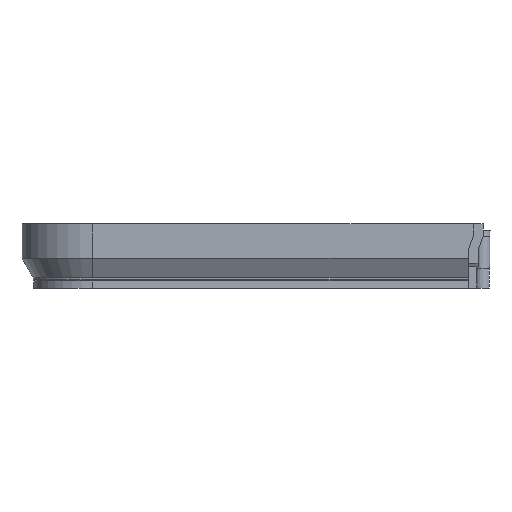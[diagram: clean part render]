
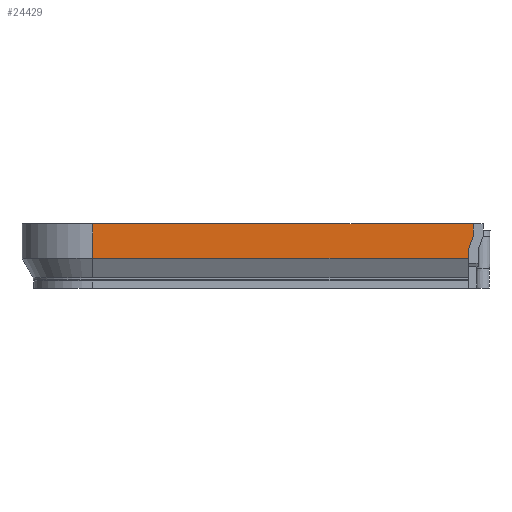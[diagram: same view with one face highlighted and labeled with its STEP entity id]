
A CAD part, left-side view. The second image highlights one B-rep face of the part: STEP entity #24429.
In plain terms, the highlighted planar face has unit normal (-1, 0, 0).
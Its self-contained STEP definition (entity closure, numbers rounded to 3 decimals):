
#2183 = PLANE('',#2184);
#2184 = AXIS2_PLACEMENT_3D('',#2185,#2186,#2187);
#2185 = CARTESIAN_POINT('',(0.,-3.198,26.));
#2186 = DIRECTION('',(0.,0.,1.));
#2187 = DIRECTION('',(1.,0.,-0.));
#10111 = VERTEX_POINT('',#10112);
#10112 = CARTESIAN_POINT('',(-196.5,152.,26.));
#10127 = CYLINDRICAL_SURFACE('',#10128,28.5);
#10128 = AXIS2_PLACEMENT_3D('',#10129,#10130,#10131);
#10129 = CARTESIAN_POINT('',(-168.,152.,12.));
#10130 = DIRECTION('',(-0.,-0.,-1.));
#10131 = DIRECTION('',(1.,0.,-0.));
#10139 = EDGE_CURVE('',#10111,#10140,#10142,.T.);
#10140 = VERTEX_POINT('',#10141);
#10141 = CARTESIAN_POINT('',(-196.5,-1.9,26.));
#10142 = SURFACE_CURVE('',#10143,(#10147,#10154),.PCURVE_S1.);
#10143 = LINE('',#10144,#10145);
#10144 = CARTESIAN_POINT('',(-196.5,152.,26.));
#10145 = VECTOR('',#10146,1.);
#10146 = DIRECTION('',(0.,-1.,0.));
#10147 = PCURVE('',#2183,#10148);
#10148 = DEFINITIONAL_REPRESENTATION('',(#10149),#10153);
#10149 = LINE('',#10150,#10151);
#10150 = CARTESIAN_POINT('',(-196.5,155.198));
#10151 = VECTOR('',#10152,1.);
#10152 = DIRECTION('',(0.,-1.));
#10153 = ( GEOMETRIC_REPRESENTATION_CONTEXT(2) 
PARAMETRIC_REPRESENTATION_CONTEXT() REPRESENTATION_CONTEXT('2D SPACE',''
  ) );
#10154 = PCURVE('',#10155,#10160);
#10155 = PLANE('',#10156);
#10156 = AXIS2_PLACEMENT_3D('',#10157,#10158,#10159);
#10157 = CARTESIAN_POINT('',(-196.5,152.,12.));
#10158 = DIRECTION('',(1.,0.,-0.));
#10159 = DIRECTION('',(0.,-1.,0.));
#10160 = DEFINITIONAL_REPRESENTATION('',(#10161),#10165);
#10161 = LINE('',#10162,#10163);
#10162 = CARTESIAN_POINT('',(0.,-14.));
#10163 = VECTOR('',#10164,1.);
#10164 = DIRECTION('',(1.,0.));
#10165 = ( GEOMETRIC_REPRESENTATION_CONTEXT(2) 
PARAMETRIC_REPRESENTATION_CONTEXT() REPRESENTATION_CONTEXT('2D SPACE',''
  ) );
#10182 = PLANE('',#10183);
#10183 = AXIS2_PLACEMENT_3D('',#10184,#10185,#10186);
#10184 = CARTESIAN_POINT('',(-245.9,-1.9,38.));
#10185 = DIRECTION('',(0.,-1.,0.));
#10186 = DIRECTION('',(1.,0.,0.));
#23549 = B_SPLINE_SURFACE_WITH_KNOTS('',1,1,(
    (#23550,#23551)
    ,(#23552,#23553
    )),.UNSPECIFIED.,.F.,.F.,.F.,(2,2),(2,2),(0.,332.5),(0.,1.),
  .PIECEWISE_BEZIER_KNOTS.);
#23550 = CARTESIAN_POINT('',(-192.,152.,4.2));
#23551 = CARTESIAN_POINT('',(-196.5,152.,12.));
#23552 = CARTESIAN_POINT('',(-192.,-176.,4.2));
#23553 = CARTESIAN_POINT('',(-196.5,-180.5,12.));
#23847 = EDGE_CURVE('',#10111,#23848,#23850,.T.);
#23848 = VERTEX_POINT('',#23849);
#23849 = CARTESIAN_POINT('',(-196.5,152.,12.));
#23850 = SURFACE_CURVE('',#23851,(#23855,#23862),.PCURVE_S1.);
#23851 = LINE('',#23852,#23853);
#23852 = CARTESIAN_POINT('',(-196.5,152.,26.));
#23853 = VECTOR('',#23854,1.);
#23854 = DIRECTION('',(0.,0.,-1.));
#23855 = PCURVE('',#10127,#23856);
#23856 = DEFINITIONAL_REPRESENTATION('',(#23857),#23861);
#23857 = LINE('',#23858,#23859);
#23858 = CARTESIAN_POINT('',(-3.142,-14.));
#23859 = VECTOR('',#23860,1.);
#23860 = DIRECTION('',(0.,1.));
#23861 = ( GEOMETRIC_REPRESENTATION_CONTEXT(2) 
PARAMETRIC_REPRESENTATION_CONTEXT() REPRESENTATION_CONTEXT('2D SPACE',''
  ) );
#23862 = PCURVE('',#10155,#23863);
#23863 = DEFINITIONAL_REPRESENTATION('',(#23864),#23868);
#23864 = LINE('',#23865,#23866);
#23865 = CARTESIAN_POINT('',(0.,-14.));
#23866 = VECTOR('',#23867,1.);
#23867 = DIRECTION('',(0.,1.));
#23868 = ( GEOMETRIC_REPRESENTATION_CONTEXT(2) 
PARAMETRIC_REPRESENTATION_CONTEXT() REPRESENTATION_CONTEXT('2D SPACE',''
  ) );
#24265 = PLANE('',#24266);
#24266 = AXIS2_PLACEMENT_3D('',#24267,#24268,#24269);
#24267 = CARTESIAN_POINT('',(-245.9,0.1,8.));
#24268 = DIRECTION('',(0.,-1.,0.));
#24269 = DIRECTION('',(1.,0.,0.));
#24372 = PLANE('',#24373);
#24373 = AXIS2_PLACEMENT_3D('',#24374,#24375,#24376);
#24374 = CARTESIAN_POINT('',(-245.9,-1.9,21.));
#24375 = DIRECTION('',(0.,-0.94,-0.342));
#24376 = DIRECTION('',(1.,0.,0.));
#24386 = EDGE_CURVE('',#10140,#24387,#24389,.T.);
#24387 = VERTEX_POINT('',#24388);
#24388 = CARTESIAN_POINT('',(-196.5,-1.9,21.));
#24389 = SURFACE_CURVE('',#24390,(#24394,#24400),.PCURVE_S1.);
#24390 = LINE('',#24391,#24392);
#24391 = CARTESIAN_POINT('',(-196.5,-1.9,25.));
#24392 = VECTOR('',#24393,1.);
#24393 = DIRECTION('',(0.,-0.,-1.));
#24394 = PCURVE('',#10182,#24395);
#24395 = DEFINITIONAL_REPRESENTATION('',(#24396),#24399);
#24396 = B_SPLINE_CURVE_WITH_KNOTS('',1,(#24397,#24398),.UNSPECIFIED.,
  .F.,.F.,(2,2),(-1.,4.),.PIECEWISE_BEZIER_KNOTS.);
#24397 = CARTESIAN_POINT('',(49.4,-12.));
#24398 = CARTESIAN_POINT('',(49.4,-17.));
#24399 = ( GEOMETRIC_REPRESENTATION_CONTEXT(2) 
PARAMETRIC_REPRESENTATION_CONTEXT() REPRESENTATION_CONTEXT('2D SPACE',''
  ) );
#24400 = PCURVE('',#10155,#24401);
#24401 = DEFINITIONAL_REPRESENTATION('',(#24402),#24405);
#24402 = B_SPLINE_CURVE_WITH_KNOTS('',1,(#24403,#24404),.UNSPECIFIED.,
  .F.,.F.,(2,2),(-1.,4.),.PIECEWISE_BEZIER_KNOTS.);
#24403 = CARTESIAN_POINT('',(153.9,-14.));
#24404 = CARTESIAN_POINT('',(153.9,-9.));
#24405 = ( GEOMETRIC_REPRESENTATION_CONTEXT(2) 
PARAMETRIC_REPRESENTATION_CONTEXT() REPRESENTATION_CONTEXT('2D SPACE',''
  ) );
#24429 = ADVANCED_FACE('',(#24430),#10155,.F.);
#24430 = FACE_BOUND('',#24431,.F.);
#24431 = EDGE_LOOP('',(#24432,#24433,#24434,#24435,#24456,#24477));
#24432 = ORIENTED_EDGE('',*,*,#23847,.F.);
#24433 = ORIENTED_EDGE('',*,*,#10139,.T.);
#24434 = ORIENTED_EDGE('',*,*,#24386,.T.);
#24435 = ORIENTED_EDGE('',*,*,#24436,.T.);
#24436 = EDGE_CURVE('',#24387,#24437,#24439,.T.);
#24437 = VERTEX_POINT('',#24438);
#24438 = CARTESIAN_POINT('',(-196.5,0.1,15.5));
#24439 = SURFACE_CURVE('',#24440,(#24444,#24450),.PCURVE_S1.);
#24440 = LINE('',#24441,#24442);
#24441 = CARTESIAN_POINT('',(-196.5,8.532,-7.688));
#24442 = VECTOR('',#24443,1.);
#24443 = DIRECTION('',(-0.,0.342,-0.94));
#24444 = PCURVE('',#10155,#24445);
#24445 = DEFINITIONAL_REPRESENTATION('',(#24446),#24449);
#24446 = B_SPLINE_CURVE_WITH_KNOTS('',1,(#24447,#24448),.UNSPECIFIED.,
  .F.,.F.,(2,2),(-30.526,-24.674),
  .PIECEWISE_BEZIER_KNOTS.);
#24447 = CARTESIAN_POINT('',(153.9,-9.));
#24448 = CARTESIAN_POINT('',(151.9,-3.5));
#24449 = ( GEOMETRIC_REPRESENTATION_CONTEXT(2) 
PARAMETRIC_REPRESENTATION_CONTEXT() REPRESENTATION_CONTEXT('2D SPACE',''
  ) );
#24450 = PCURVE('',#24372,#24451);
#24451 = DEFINITIONAL_REPRESENTATION('',(#24452),#24455);
#24452 = B_SPLINE_CURVE_WITH_KNOTS('',1,(#24453,#24454),.UNSPECIFIED.,
  .F.,.F.,(2,2),(-30.526,-24.674),
  .PIECEWISE_BEZIER_KNOTS.);
#24453 = CARTESIAN_POINT('',(49.4,0.));
#24454 = CARTESIAN_POINT('',(49.4,-5.852));
#24455 = ( GEOMETRIC_REPRESENTATION_CONTEXT(2) 
PARAMETRIC_REPRESENTATION_CONTEXT() REPRESENTATION_CONTEXT('2D SPACE',''
  ) );
#24456 = ORIENTED_EDGE('',*,*,#24457,.T.);
#24457 = EDGE_CURVE('',#24437,#24458,#24460,.T.);
#24458 = VERTEX_POINT('',#24459);
#24459 = CARTESIAN_POINT('',(-196.5,0.1,12.));
#24460 = SURFACE_CURVE('',#24461,(#24465,#24471),.PCURVE_S1.);
#24461 = LINE('',#24462,#24463);
#24462 = CARTESIAN_POINT('',(-196.5,0.1,10.));
#24463 = VECTOR('',#24464,1.);
#24464 = DIRECTION('',(0.,-0.,-1.));
#24465 = PCURVE('',#10155,#24466);
#24466 = DEFINITIONAL_REPRESENTATION('',(#24467),#24470);
#24467 = B_SPLINE_CURVE_WITH_KNOTS('',1,(#24468,#24469),.UNSPECIFIED.,
  .F.,.F.,(2,2),(-5.5,-2.),.PIECEWISE_BEZIER_KNOTS.);
#24468 = CARTESIAN_POINT('',(151.9,-3.5));
#24469 = CARTESIAN_POINT('',(151.9,0.));
#24470 = ( GEOMETRIC_REPRESENTATION_CONTEXT(2) 
PARAMETRIC_REPRESENTATION_CONTEXT() REPRESENTATION_CONTEXT('2D SPACE',''
  ) );
#24471 = PCURVE('',#24265,#24472);
#24472 = DEFINITIONAL_REPRESENTATION('',(#24473),#24476);
#24473 = B_SPLINE_CURVE_WITH_KNOTS('',1,(#24474,#24475),.UNSPECIFIED.,
  .F.,.F.,(2,2),(-5.5,-2.),.PIECEWISE_BEZIER_KNOTS.);
#24474 = CARTESIAN_POINT('',(49.4,7.5));
#24475 = CARTESIAN_POINT('',(49.4,4.));
#24476 = ( GEOMETRIC_REPRESENTATION_CONTEXT(2) 
PARAMETRIC_REPRESENTATION_CONTEXT() REPRESENTATION_CONTEXT('2D SPACE',''
  ) );
#24477 = ORIENTED_EDGE('',*,*,#24478,.F.);
#24478 = EDGE_CURVE('',#23848,#24458,#24479,.T.);
#24479 = SURFACE_CURVE('',#24480,(#24484,#24491),.PCURVE_S1.);
#24480 = LINE('',#24481,#24482);
#24481 = CARTESIAN_POINT('',(-196.5,152.,12.));
#24482 = VECTOR('',#24483,1.);
#24483 = DIRECTION('',(0.,-1.,0.));
#24484 = PCURVE('',#10155,#24485);
#24485 = DEFINITIONAL_REPRESENTATION('',(#24486),#24490);
#24486 = LINE('',#24487,#24488);
#24487 = CARTESIAN_POINT('',(0.,0.));
#24488 = VECTOR('',#24489,1.);
#24489 = DIRECTION('',(1.,0.));
#24490 = ( GEOMETRIC_REPRESENTATION_CONTEXT(2) 
PARAMETRIC_REPRESENTATION_CONTEXT() REPRESENTATION_CONTEXT('2D SPACE',''
  ) );
#24491 = PCURVE('',#23549,#24492);
#24492 = DEFINITIONAL_REPRESENTATION('',(#24493),#24497);
#24493 = LINE('',#24494,#24495);
#24494 = CARTESIAN_POINT('',(0.,1.));
#24495 = VECTOR('',#24496,1.);
#24496 = DIRECTION('',(1.,0.));
#24497 = ( GEOMETRIC_REPRESENTATION_CONTEXT(2) 
PARAMETRIC_REPRESENTATION_CONTEXT() REPRESENTATION_CONTEXT('2D SPACE',''
  ) );
